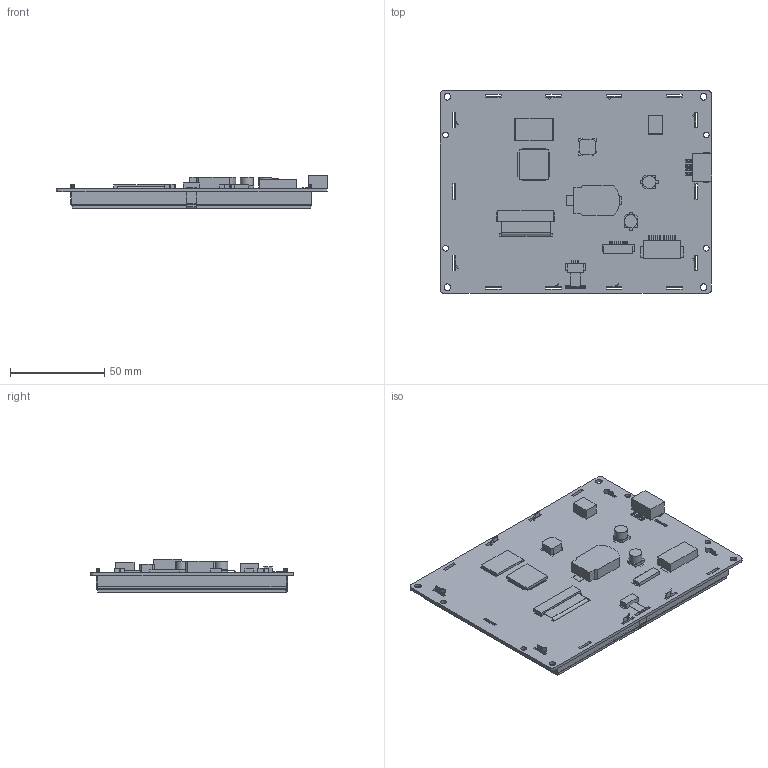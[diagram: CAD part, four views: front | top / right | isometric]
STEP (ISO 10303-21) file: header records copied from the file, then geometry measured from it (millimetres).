
FILE_DESCRIPTION(/* description */ (''),/* implementation_level */ '2;1');
FILE_NAME(/* name */ '',/* time_stamp */ '2021-04-08T14:22:20+08:00',/* author */ (''),/* organization */ (''),/* preprocessor_version */ 'ST-DEVELOPER v11',/* originating_system */ 'SIEMENS PLM Software NX 7.5',/* authorisation */ '');
FILE_SCHEMA (('AP203_CONFIGURATION_CONTROLLED_3D_DESIGN_OF_MECHANICAL_PARTS_AND_ASSEMBLIES_MIM_LF'));
Length unit declared in the file: millimetre
Products named in the file (1): 5.6
Bounding box: 143.64 x 107.41 x 17.6 mm (x, y, z)
Volume: 267695 mm3; surface area: 188172.1 mm2
Topology: 41 solids, 41 shells, 2009 faces, 5295 edges, 3507 vertices
Faces by surface type: plane 1955, cylinder 47, extrusion 7
Full cylindrical faces by diameter (mm): 3 x4, 3.5 x4, 6.776 x2
Entity records: 62575 total; most frequent: CARTESIAN_POINT 11764, ORIENTED_EDGE 10316, DIRECTION 9228, EDGE_CURVE 5158, VECTOR 5002, LINE 4995, VERTEX_POINT 3298, EDGE_LOOP 2138
